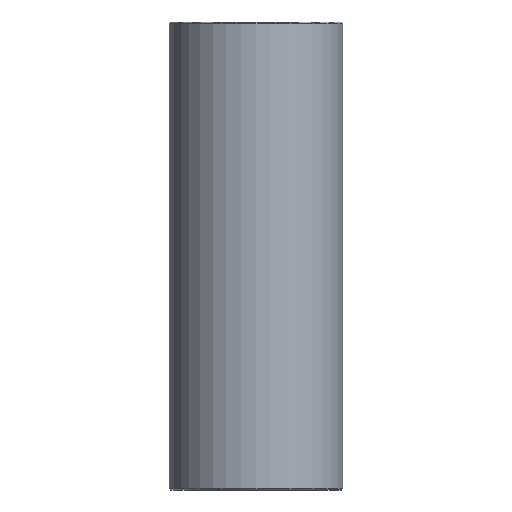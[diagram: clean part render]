
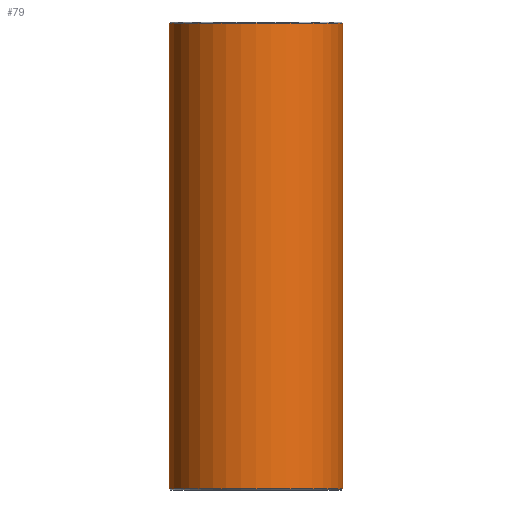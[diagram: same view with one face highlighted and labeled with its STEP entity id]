
A CAD part, front view. The second image highlights one B-rep face of the part: STEP entity #79.
In plain terms, the highlighted cylindrical face has radius 13 mm (diameter 26 mm), a full revolution.
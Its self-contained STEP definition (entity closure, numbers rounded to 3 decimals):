
#79=ADVANCED_FACE('',(#96,#97),#98,.T.);
#96=FACE_OUTER_BOUND('',#120,.T.);
#97=FACE_OUTER_BOUND('',#121,.T.);
#98=CYLINDRICAL_SURFACE('',#122,13.);
#120=EDGE_LOOP('',(#152));
#121=EDGE_LOOP('',(#153));
#122=AXIS2_PLACEMENT_3D('',#154,#155,#156);
#152=ORIENTED_EDGE('',*,*,#178,.T.);
#153=ORIENTED_EDGE('',*,*,#177,.T.);
#154=CARTESIAN_POINT('',(0.0,0.0,70.0));
#155=DIRECTION('',(0.0,0.0,-1.0));
#156=DIRECTION('',(-1.0,0.0,0.0));
#177=EDGE_CURVE('',#190,#190,#191,.T.);
#178=EDGE_CURVE('',#192,#192,#193,.F.);
#190=VERTEX_POINT('',#206);
#191=CIRCLE('',#207,13.);
#192=VERTEX_POINT('',#208);
#193=CIRCLE('',#209,13.);
#206=CARTESIAN_POINT('',(13.,0.0,0.2));
#207=AXIS2_PLACEMENT_3D('',#227,#228,#229);
#208=CARTESIAN_POINT('',(13.,0.,69.8));
#209=AXIS2_PLACEMENT_3D('',#230,#231,#232);
#227=CARTESIAN_POINT('',(0.0,0.0,0.2));
#228=DIRECTION('',(0.0,0.0,1.0));
#229=DIRECTION('',(1.0,0.0,0.0));
#230=CARTESIAN_POINT('',(0.0,0.0,69.8));
#231=DIRECTION('',(0.0,0.0,1.0));
#232=DIRECTION('',(1.0,0.0,0.0));
